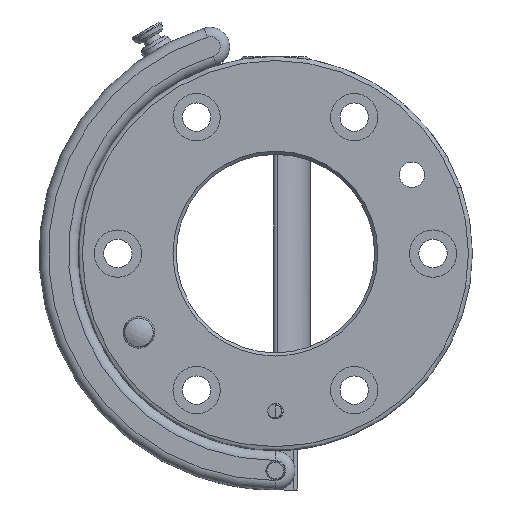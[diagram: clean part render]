
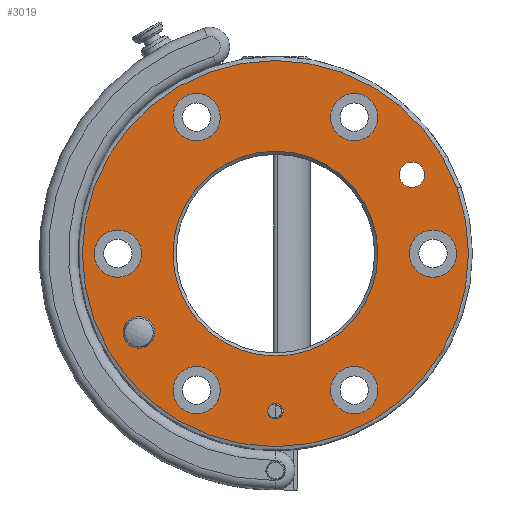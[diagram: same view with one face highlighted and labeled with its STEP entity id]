
A CAD part, front view. The second image highlights one B-rep face of the part: STEP entity #3019.
In plain terms, the highlighted planar face has unit normal (0, -1, 0).
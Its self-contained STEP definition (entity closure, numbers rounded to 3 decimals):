
#84=CARTESIAN_POINT('',(-100.487,-21.408,6.884));
#85=VERTEX_POINT('',#84);
#86=CARTESIAN_POINT('',(-95.487,-21.408,6.884));
#87=DIRECTION('',(0.0,1.0,0.0));
#88=DIRECTION('',(-1.0,0.0,0.0));
#89=AXIS2_PLACEMENT_3D('',#86,#87,#88);
#90=CIRCLE('',#89,5.0);
#91=EDGE_CURVE('',#85,#85,#90,.T.);
#2886=CARTESIAN_POINT('',(9.064,-21.408,31.884));
#2887=VERTEX_POINT('',#2886);
#2888=CARTESIAN_POINT('',(-52.186,-21.408,31.884));
#2889=DIRECTION('',(0.0,1.0,0.0));
#2890=DIRECTION('',(-1.0,0.0,0.0));
#2891=AXIS2_PLACEMENT_3D('',#2888,#2889,#2890);
#2892=CIRCLE('',#2891,61.25);
#2893=EDGE_CURVE('',#2887,#2887,#2892,.T.);
#2909=CARTESIAN_POINT('',(-52.186,-21.408,31.884));
#2910=DIRECTION('',(0.0,-1.0,0.0));
#2911=DIRECTION('',(-1.0,0.0,0.0));
#2912=AXIS2_PLACEMENT_3D('',#2909,#2910,#2911);
#2913=PLANE('',#2912);
#2914=ORIENTED_EDGE('',*,*,#2893,.F.);
#2915=EDGE_LOOP('',(#2914));
#2916=FACE_OUTER_BOUND('',#2915,.T.);
#2917=ORIENTED_EDGE('',*,*,#91,.T.);
#2918=EDGE_LOOP('',(#2917));
#2919=FACE_BOUND('',#2918,.T.);
#2920=CARTESIAN_POINT('',(-19.686,-21.408,31.884));
#2921=VERTEX_POINT('',#2920);
#2922=CARTESIAN_POINT('',(-52.186,-21.408,31.884));
#2923=DIRECTION('',(0.0,-1.0,0.0));
#2924=DIRECTION('',(-1.0,0.0,0.0));
#2925=AXIS2_PLACEMENT_3D('',#2922,#2923,#2924);
#2926=CIRCLE('',#2925,32.5);
#2927=EDGE_CURVE('',#2921,#2921,#2926,.T.);
#2928=ORIENTED_EDGE('',*,*,#2927,.F.);
#2929=EDGE_LOOP('',(#2928));
#2930=FACE_BOUND('',#2929,.T.);
#2931=CARTESIAN_POINT('',(-84.686,-21.408,75.185));
#2932=VERTEX_POINT('',#2931);
#2933=CARTESIAN_POINT('',(-77.186,-21.408,75.185));
#2934=DIRECTION('',(0.0,1.0,0.0));
#2935=DIRECTION('',(-1.0,0.0,0.0));
#2936=AXIS2_PLACEMENT_3D('',#2933,#2934,#2935);
#2937=CIRCLE('',#2936,7.5);
#2938=EDGE_CURVE('',#2932,#2932,#2937,.T.);
#2939=ORIENTED_EDGE('',*,*,#2938,.T.);
#2940=EDGE_LOOP('',(#2939));
#2941=FACE_BOUND('',#2940,.T.);
#2942=CARTESIAN_POINT('',(-34.686,-21.408,75.185));
#2943=VERTEX_POINT('',#2942);
#2944=CARTESIAN_POINT('',(-27.186,-21.408,75.185));
#2945=DIRECTION('',(0.0,1.0,0.0));
#2946=DIRECTION('',(-1.0,0.0,0.0));
#2947=AXIS2_PLACEMENT_3D('',#2944,#2945,#2946);
#2948=CIRCLE('',#2947,7.5);
#2949=EDGE_CURVE('',#2943,#2943,#2948,.T.);
#2950=ORIENTED_EDGE('',*,*,#2949,.T.);
#2951=EDGE_LOOP('',(#2950));
#2952=FACE_BOUND('',#2951,.T.);
#2953=CARTESIAN_POINT('',(-9.686,-21.408,31.884));
#2954=VERTEX_POINT('',#2953);
#2955=CARTESIAN_POINT('',(-2.186,-21.408,31.884));
#2956=DIRECTION('',(0.0,1.0,0.0));
#2957=DIRECTION('',(-1.0,0.0,0.0));
#2958=AXIS2_PLACEMENT_3D('',#2955,#2956,#2957);
#2959=CIRCLE('',#2958,7.5);
#2960=EDGE_CURVE('',#2954,#2954,#2959,.T.);
#2961=ORIENTED_EDGE('',*,*,#2960,.T.);
#2962=EDGE_LOOP('',(#2961));
#2963=FACE_BOUND('',#2962,.T.);
#2964=CARTESIAN_POINT('',(-34.686,-21.408,-11.417));
#2965=VERTEX_POINT('',#2964);
#2966=CARTESIAN_POINT('',(-27.186,-21.408,-11.417));
#2967=DIRECTION('',(0.0,1.0,0.0));
#2968=DIRECTION('',(-1.0,0.0,0.0));
#2969=AXIS2_PLACEMENT_3D('',#2966,#2967,#2968);
#2970=CIRCLE('',#2969,7.5);
#2971=EDGE_CURVE('',#2965,#2965,#2970,.T.);
#2972=ORIENTED_EDGE('',*,*,#2971,.T.);
#2973=EDGE_LOOP('',(#2972));
#2974=FACE_BOUND('',#2973,.T.);
#2975=CARTESIAN_POINT('',(-84.686,-21.408,-11.417));
#2976=VERTEX_POINT('',#2975);
#2977=CARTESIAN_POINT('',(-77.186,-21.408,-11.417));
#2978=DIRECTION('',(0.0,1.0,0.0));
#2979=DIRECTION('',(-1.0,0.0,0.0));
#2980=AXIS2_PLACEMENT_3D('',#2977,#2978,#2979);
#2981=CIRCLE('',#2980,7.5);
#2982=EDGE_CURVE('',#2976,#2976,#2981,.T.);
#2983=ORIENTED_EDGE('',*,*,#2982,.T.);
#2984=EDGE_LOOP('',(#2983));
#2985=FACE_BOUND('',#2984,.T.);
#2986=CARTESIAN_POINT('',(-109.686,-21.408,31.884));
#2987=VERTEX_POINT('',#2986);
#2988=CARTESIAN_POINT('',(-102.186,-21.408,31.884));
#2989=DIRECTION('',(0.0,1.0,0.0));
#2990=DIRECTION('',(-1.0,0.0,0.0));
#2991=AXIS2_PLACEMENT_3D('',#2988,#2989,#2990);
#2992=CIRCLE('',#2991,7.5);
#2993=EDGE_CURVE('',#2987,#2987,#2992,.T.);
#2994=ORIENTED_EDGE('',*,*,#2993,.T.);
#2995=EDGE_LOOP('',(#2994));
#2996=FACE_BOUND('',#2995,.T.);
#2997=CARTESIAN_POINT('',(-54.644,-21.408,-18.116));
#2998=VERTEX_POINT('',#2997);
#2999=CARTESIAN_POINT('',(-52.186,-21.408,-18.116));
#3000=DIRECTION('',(0.0,1.0,0.0));
#3001=DIRECTION('',(1.0,0.0,0.0));
#3002=AXIS2_PLACEMENT_3D('',#2999,#3000,#3001);
#3003=CIRCLE('',#3002,2.459);
#3004=EDGE_CURVE('',#2998,#2998,#3003,.T.);
#3005=ORIENTED_EDGE('',*,*,#3004,.T.);
#3006=EDGE_LOOP('',(#3005));
#3007=FACE_BOUND('',#3006,.T.);
#3008=CARTESIAN_POINT('',(-12.885,-21.408,56.884));
#3009=VERTEX_POINT('',#3008);
#3010=CARTESIAN_POINT('',(-8.885,-21.408,56.884));
#3011=DIRECTION('',(0.0,1.0,0.0));
#3012=DIRECTION('',(1.0,0.0,0.0));
#3013=AXIS2_PLACEMENT_3D('',#3010,#3011,#3012);
#3014=CIRCLE('',#3013,4.0);
#3015=EDGE_CURVE('',#3009,#3009,#3014,.T.);
#3016=ORIENTED_EDGE('',*,*,#3015,.T.);
#3017=EDGE_LOOP('',(#3016));
#3018=FACE_BOUND('',#3017,.T.);
#3019=ADVANCED_FACE('',(#2916,#2919,#2930,#2941,#2952,#2963,#2974,#2985,#2996,#3007,#3018),#2913,.T.);
